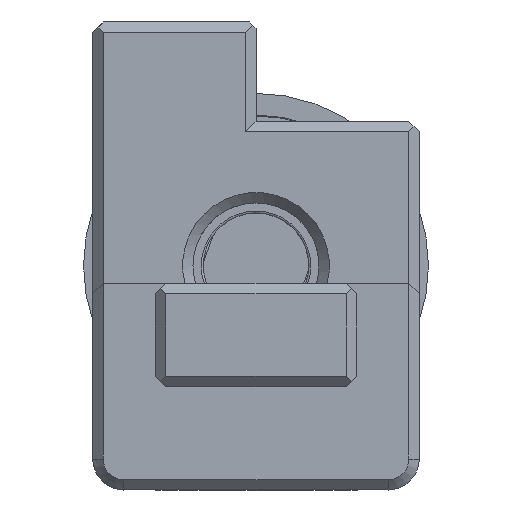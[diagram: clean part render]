
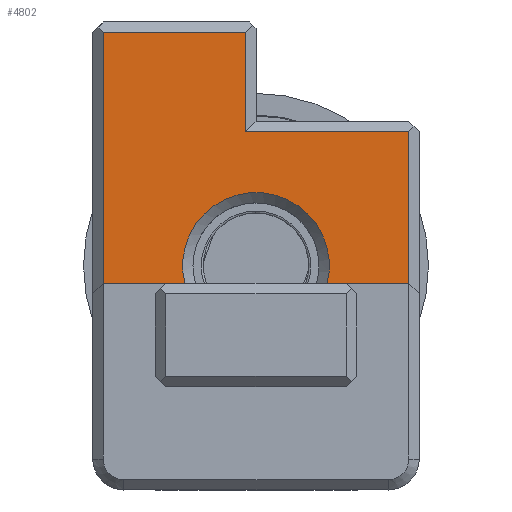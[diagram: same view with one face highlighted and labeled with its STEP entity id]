
A CAD part, front view. The second image highlights one B-rep face of the part: STEP entity #4802.
In plain terms, the highlighted planar face has unit normal (0, -1, 0).
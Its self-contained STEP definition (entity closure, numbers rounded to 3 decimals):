
#15=DIRECTION('',(0.,0.,1.));
#16=VECTOR('',#15,14.205);
#17=CARTESIAN_POINT('',(-7.4,0.,-2.9));
#18=LINE('',#17,#16);
#19=DIRECTION('',(-1.,0.,0.));
#20=VECTOR('',#19,6.9);
#21=CARTESIAN_POINT('',(-0.5,0.,11.305));
#22=LINE('',#21,#20);
#23=DIRECTION('',(0.,0.,1.));
#24=VECTOR('',#23,4.8);
#25=CARTESIAN_POINT('',(-0.5,0.,6.505));
#26=LINE('',#25,#24);
#27=DIRECTION('',(1.,0.,0.));
#28=VECTOR('',#27,7.9);
#29=CARTESIAN_POINT('',(-0.5,0.,6.505));
#30=LINE('',#29,#28);
#31=DIRECTION('',(0.,0.,-1.));
#32=VECTOR('',#31,9.405);
#33=CARTESIAN_POINT('',(7.4,0.,6.505));
#34=LINE('',#33,#32);
#35=DIRECTION('',(1.,0.,0.));
#36=VECTOR('',#35,5.352);
#37=CARTESIAN_POINT('',(2.048,0.,-2.9));
#38=LINE('',#37,#36);
#39=DIRECTION('',(1.,0.,0.));
#40=VECTOR('',#39,5.352);
#41=CARTESIAN_POINT('',(-7.4,0.,-2.9));
#42=LINE('',#41,#40);
#107=CARTESIAN_POINT('',(-2.048,0.,
-2.9));
#109=CARTESIAN_POINT('',(2.048,0.,-2.9));
#134=CARTESIAN_POINT('',(0.,0.,0.));
#135=DIRECTION('',(0.,1.,0.));
#136=DIRECTION('',(-0.577,0.,-0.817));
#137=AXIS2_PLACEMENT_3D('',#134,#135,#136);
#4579=VERTEX_POINT('',#107);
#4586=VERTEX_POINT('',#109);
#4631=CARTESIAN_POINT('',(-0.5,0.,6.505));
#4632=CARTESIAN_POINT('',(-0.5,0.,11.305));
#4633=VERTEX_POINT('',#4631);
#4634=VERTEX_POINT('',#4632);
#4723=CARTESIAN_POINT('',(7.4,0.,-2.9));
#4724=VERTEX_POINT('',#4723);
#4725=CARTESIAN_POINT('',(7.4,0.,6.505));
#4727=VERTEX_POINT('',#4725);
#4735=CARTESIAN_POINT('',(-7.4,0.,11.305));
#4736=VERTEX_POINT('',#4735);
#4737=CARTESIAN_POINT('',(-7.4,0.,-2.9));
#4738=VERTEX_POINT('',#4737);
#4779=CARTESIAN_POINT('',(0.,0.,0.));
#4780=DIRECTION('',(0.,1.,0.));
#4781=DIRECTION('',(1.,0.,0.));
#4782=AXIS2_PLACEMENT_3D('',#4779,#4780,#4781);
#4783=PLANE('',#4782);
#4785=ORIENTED_EDGE('',*,*,#4784,.T.);
#4787=ORIENTED_EDGE('',*,*,#4786,.F.);
#4789=ORIENTED_EDGE('',*,*,#4788,.F.);
#4791=ORIENTED_EDGE('',*,*,#4790,.T.);
#4793=ORIENTED_EDGE('',*,*,#4792,.T.);
#4795=ORIENTED_EDGE('',*,*,#4794,.F.);
#4797=ORIENTED_EDGE('',*,*,#4796,.F.);
#4799=ORIENTED_EDGE('',*,*,#4798,.F.);
#4800=EDGE_LOOP('',(#4785,#4787,#4789,#4791,#4793,#4795,#4797,#4799));
#4801=FACE_OUTER_BOUND('',#4800,.F.);
#4802=ADVANCED_FACE('',(#4801),#4783,.F.);
#138=CIRCLE('',#137,3.55);
#4784=EDGE_CURVE('',#4738,#4736,#18,.T.);
#4786=EDGE_CURVE('',#4634,#4736,#22,.T.);
#4788=EDGE_CURVE('',#4633,#4634,#26,.T.);
#4790=EDGE_CURVE('',#4633,#4727,#30,.T.);
#4792=EDGE_CURVE('',#4727,#4724,#34,.T.);
#4794=EDGE_CURVE('',#4586,#4724,#38,.T.);
#4796=EDGE_CURVE('',#4579,#4586,#138,.T.);
#4798=EDGE_CURVE('',#4738,#4579,#42,.T.);
